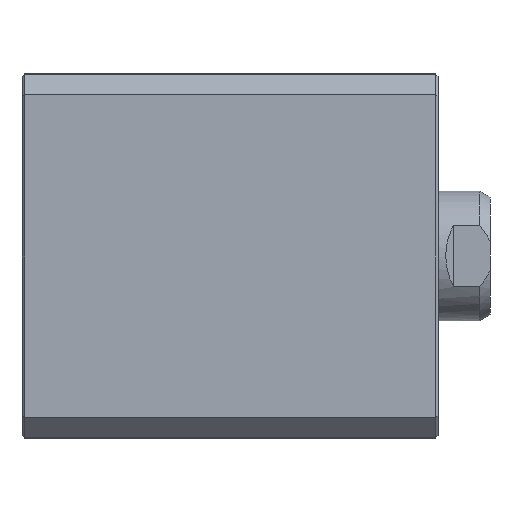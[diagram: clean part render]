
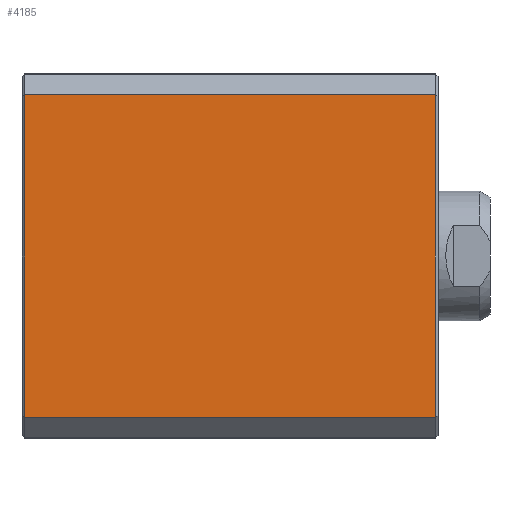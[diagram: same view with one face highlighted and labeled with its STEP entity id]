
A CAD part, left-side view. The second image highlights one B-rep face of the part: STEP entity #4185.
In plain terms, the highlighted planar face has unit normal (-1, 0, 0).
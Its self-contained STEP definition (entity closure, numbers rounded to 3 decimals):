
#231=LINE('',#6052,#525);
#234=LINE('',#6058,#528);
#235=LINE('',#6061,#529);
#236=LINE('',#6062,#530);
#525=VECTOR('',#4948,1000.);
#528=VECTOR('',#4953,1000.);
#529=VECTOR('',#4954,1000.);
#530=VECTOR('',#4955,1000.);
#728=PLANE('',#4418);
#1193=ORIENTED_EDGE('',*,*,#1843,.F.);
#1194=ORIENTED_EDGE('',*,*,#1844,.T.);
#1195=ORIENTED_EDGE('',*,*,#1840,.T.);
#1196=ORIENTED_EDGE('',*,*,#1845,.T.);
#1840=EDGE_CURVE('',#2171,#2172,#231,.T.);
#1843=EDGE_CURVE('',#2173,#2174,#234,.T.);
#1844=EDGE_CURVE('',#2173,#2171,#235,.T.);
#1845=EDGE_CURVE('',#2172,#2174,#236,.T.);
#2171=VERTEX_POINT('',#6053);
#2172=VERTEX_POINT('',#6054);
#2173=VERTEX_POINT('',#6059);
#2174=VERTEX_POINT('',#6060);
#2416=EDGE_LOOP('',(#1193,#1194,#1195,#1196));
#2652=FACE_BOUND('',#2416,.T.);
#4185=ADVANCED_FACE('',(#2652),#728,.T.);
#4418=AXIS2_PLACEMENT_3D('',#6057,#4951,#4952);
#4948=DIRECTION('',(0.,-1.,0.));
#4951=DIRECTION('',(-1.,0.,0.));
#4952=DIRECTION('',(0.,0.,1.));
#4953=DIRECTION('',(0.,-1.,0.));
#4954=DIRECTION('',(0.,0.,-1.));
#4955=DIRECTION('',(0.,0.,1.));
#6052=CARTESIAN_POINT('',(-35.,80.,-31.));
#6053=CARTESIAN_POINT('',(-35.,79.5,-31.));
#6054=CARTESIAN_POINT('',(-35.,0.5,-31.));
#6057=CARTESIAN_POINT('',(-35.,80.,31.));
#6058=CARTESIAN_POINT('',(-35.,80.,31.));
#6059=CARTESIAN_POINT('',(-35.,79.5,31.));
#6060=CARTESIAN_POINT('',(-35.,0.5,31.));
#6061=CARTESIAN_POINT('',(-35.,79.5,-31.));
#6062=CARTESIAN_POINT('',(-35.,0.5,31.));
